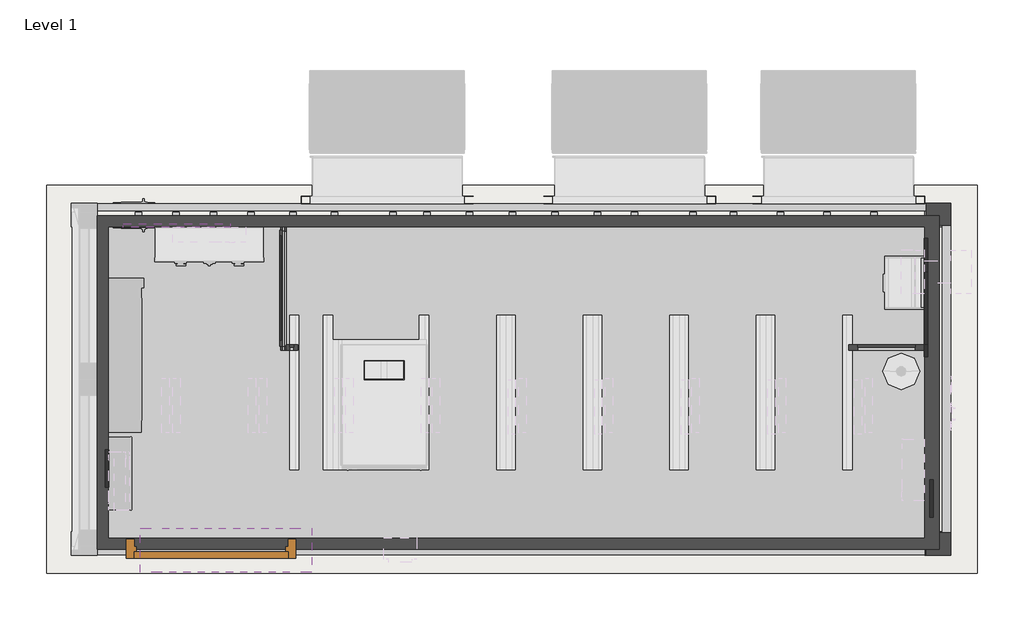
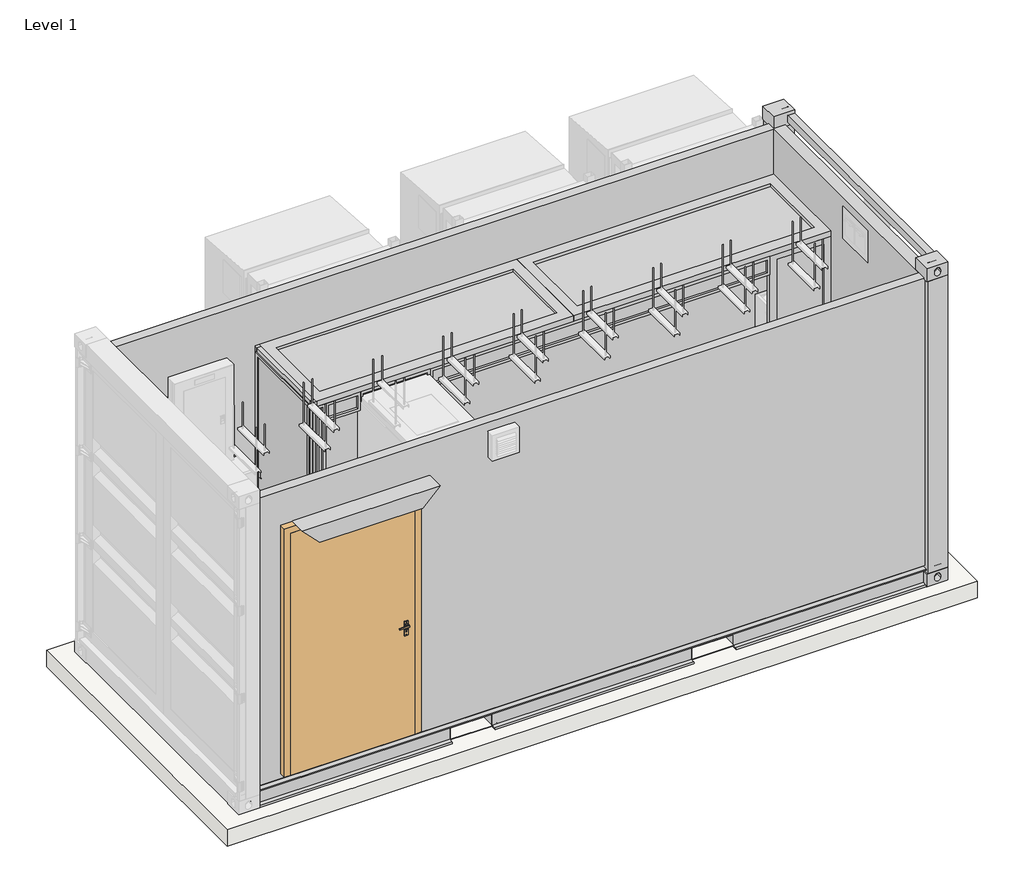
# One storey, part 1 of 2: 25 beams, 5 walls, 2 doors, 2 slabs.
"""IFC4 building model written with IfcOpenShell, lengths in millimetres."""

from ifc_helpers import new_model, si_unit, frame, origin, place, context, project, spatial, polyline, circle_curve, outline, extrude, transform, mapped, element, save
from ifc_brep_helpers import plane_surface, cylinder_surface, advanced_brep
from components import beam_51ea939b, beam_eed5193a, beam_32ef51aa, beam_f05dd575, c120x45_62af5141, c120x45_5c9b4daa, foot_stand_and_door_shade_foot_stand_and_door_shade_9e24d134, door_5ed18baa, door_f1603644, slab_0a3f1999

model = new_model("IFC4")

# Units and contexts
model_context = context("Model", 3, world=origin())
ifc_project = project(units=[si_unit("LENGTHUNIT", "METRE", prefix="MILLI")], contexts=[model_context])

# Site, building, storey
site = spatial("IfcSite", under=ifc_project)
building = spatial("IfcBuilding", under=site)
storey = spatial("IfcBuildingStorey", under=building, Name="Level 1", Elevation=0.0)

# Beams
placement = place(None, origin())
beam_shape = beam_51ea939b(model_context)
element("IfcBeam", 1, ObjectType="Base_cover_Config-6 : Base_cover_Config-6", at=placement, inside=storey, context=model_context, shape_type="MappedRepresentation", body=[
    mapped(beam_shape, transform((-1165.6108107, -1779.2772175, 0.0), x_axis=(1.0, 0.0, 0.0), y_axis=(0.0, 1.0, 0.0), z_axis=(0.0, 0.0, 1.0))),
])
beam_2_shape = beam_eed5193a(model_context)
element("IfcBeam", 2, ObjectType="Insulation_config6 : Insulation_config6", at=placement, inside=storey, context=model_context, shape_type="MappedRepresentation", body=[
    mapped(beam_2_shape, transform((-5643.4948906, -3401.735258, 0.0), x_axis=(1.0, 0.0, 0.0), y_axis=(0.0, 1.0, 0.0), z_axis=(0.0, 0.0, 1.0))),
])
beam_3_shape = beam_32ef51aa(model_context)
element("IfcBeam", 3, ObjectType="Inside Partition Config-6 : Inside Partition Config-6", at=placement, inside=storey, context=model_context, shape_type="MappedRepresentation", body=[
    mapped(beam_3_shape, transform((-2771.1108107, -1128.2772175, 0.0), x_axis=(1.0, 0.0, 0.0), y_axis=(0.0, 1.0, 0.0), z_axis=(0.0, 0.0, 1.0))),
])
beam_4_shape = beam_f05dd575(model_context)
element("IfcBeam", 4, ObjectType="Config-6 Right side wall acc : Config-6 Right side wall acc", at=placement, inside=storey, context=model_context, shape_type="MappedRepresentation", body=[
    mapped(beam_4_shape, transform((-1117.1108023, -2915.458701, 250.9999942), x_axis=(1.0, 0.0, 0.0), y_axis=(0.0, 1.0, 0.0), z_axis=(0.0, 0.0, 1.0))),
])
c120x45_shape = c120x45_62af5141(model_context)
element("IfcBeam", 5, ObjectType="M_C-Channel_305x105 : C120x45", at=placement, inside=storey, context=model_context, shape_type="MappedRepresentation", body=[
    mapped(c120x45_shape, transform((-3750.0018007, -1755.2772175, 324.0), x_axis=(0.0, -1.0, 0.0), y_axis=(1.0, 0.0, 0.0), z_axis=(0.0, 0.0, 1.0))),
])
element("IfcBeam", 6, ObjectType="M_C-Channel_305x105 : C120x45", at=placement, inside=storey, context=model_context, shape_type="MappedRepresentation", body=[
    mapped(c120x45_shape, transform((-3490.0018007, -1755.2772175, 324.0), x_axis=(0.0, -1.0, 0.0), y_axis=(1.0, 0.0, 0.0), z_axis=(0.0, 0.0, 1.0))),
])
element("IfcBeam", 7, ObjectType="M_C-Channel_305x105 : C120x45", at=placement, inside=storey, context=model_context, shape_type="MappedRepresentation", body=[
    mapped(c120x45_shape, transform((-3230.0018007, -1755.2772175, 324.0), x_axis=(0.0, -1.0, 0.0), y_axis=(1.0, 0.0, 0.0), z_axis=(0.0, 0.0, 1.0))),
])
element("IfcBeam", 8, ObjectType="M_C-Channel_305x105 : C120x45", at=placement, inside=storey, context=model_context, shape_type="MappedRepresentation", body=[
    mapped(c120x45_shape, transform((-2970.0018007, -1755.2772175, 324.0), x_axis=(0.0, -1.0, 0.0), y_axis=(1.0, 0.0, 0.0), z_axis=(0.0, 0.0, 1.0))),
])
element("IfcBeam", 9, ObjectType="M_C-Channel_305x105 : C120x45", at=placement, inside=storey, context=model_context, shape_type="MappedRepresentation", body=[
    mapped(c120x45_shape, transform((-2392.0018007, -1755.2772175, 324.0), x_axis=(0.0, -1.0, 0.0), y_axis=(1.0, 0.0, 0.0), z_axis=(0.0, 0.0, 1.0))),
])
element("IfcBeam", 10, ObjectType="M_C-Channel_305x105 : C120x45", at=placement, inside=storey, context=model_context, shape_type="MappedRepresentation", body=[
    mapped(c120x45_shape, transform((-2681.0018007, -1755.2772175, 324.0), x_axis=(0.0, -1.0, 0.0), y_axis=(1.0, 0.0, 0.0), z_axis=(0.0, 0.0, 1.0))),
])
element("IfcBeam", 11, ObjectType="M_C-Channel_305x105 : C120x45", at=placement, inside=storey, context=model_context, shape_type="MappedRepresentation", body=[
    mapped(c120x45_shape, transform((-1750.0018007, -1755.2772175, 324.0), x_axis=(0.0, -1.0, 0.0), y_axis=(1.0, 0.0, 0.0), z_axis=(0.0, 0.0, 1.0))),
])
element("IfcBeam", 12, ObjectType="M_C-Channel_305x105 : C120x45", at=placement, inside=storey, context=model_context, shape_type="MappedRepresentation", body=[
    mapped(c120x45_shape, transform((-1455.0018007, -1755.2772175, 324.0), x_axis=(0.0, -1.0, 0.0), y_axis=(1.0, 0.0, 0.0), z_axis=(0.0, 0.0, 1.0))),
])
element("IfcBeam", 13, ObjectType="M_C-Channel_305x105 : C120x45", at=placement, inside=storey, context=model_context, shape_type="MappedRepresentation", body=[
    mapped(c120x45_shape, transform((-1158.964023, -1755.2772175, 324.0), x_axis=(0.0, -1.0, 0.0), y_axis=(1.0, 0.0, 0.0), z_axis=(0.0, 0.0, 1.0))),
])
element("IfcBeam", 14, ObjectType="M_C-Channel_305x105 : C120x45", at=placement, inside=storey, context=model_context, shape_type="MappedRepresentation", body=[
    mapped(c120x45_shape, transform((-865.0018007, -1755.2772175, 324.0), x_axis=(0.0, -1.0, 0.0), y_axis=(1.0, 0.0, 0.0), z_axis=(0.0, 0.0, 1.0))),
])
element("IfcBeam", 15, ObjectType="M_C-Channel_305x105 : C120x45", at=placement, inside=storey, context=model_context, shape_type="MappedRepresentation", body=[
    mapped(c120x45_shape, transform((-570.0018007, -1755.2772175, 324.0), x_axis=(0.0, -1.0, 0.0), y_axis=(1.0, 0.0, 0.0), z_axis=(0.0, 0.0, 1.0))),
])
element("IfcBeam", 16, ObjectType="M_C-Channel_305x105 : C120x45", at=placement, inside=storey, context=model_context, shape_type="MappedRepresentation", body=[
    mapped(c120x45_shape, transform((-312.0018007, -1755.2772175, 324.0), x_axis=(0.0, -1.0, 0.0), y_axis=(1.0, 0.0, 0.0), z_axis=(0.0, 0.0, 1.0))),
])
element("IfcBeam", 17, ObjectType="M_C-Channel_305x105 : C120x45", at=placement, inside=storey, context=model_context, shape_type="MappedRepresentation", body=[
    mapped(c120x45_shape, transform((372.9981993, -1755.2772175, 324.0), x_axis=(0.0, -1.0, 0.0), y_axis=(1.0, 0.0, 0.0), z_axis=(0.0, 0.0, 1.0))),
])
element("IfcBeam", 18, ObjectType="M_C-Channel_305x105 : C120x45", at=placement, inside=storey, context=model_context, shape_type="MappedRepresentation", body=[
    mapped(c120x45_shape, transform((697.9981993, -1755.2772175, 324.0), x_axis=(0.0, -1.0, 0.0), y_axis=(1.0, 0.0, 0.0), z_axis=(0.0, 0.0, 1.0))),
])
element("IfcBeam", 19, ObjectType="M_C-Channel_305x105 : C120x45", at=placement, inside=storey, context=model_context, shape_type="MappedRepresentation", body=[
    mapped(c120x45_shape, transform((1022.9981993, -1755.2772175, 324.0), x_axis=(0.0, -1.0, 0.0), y_axis=(1.0, 0.0, 0.0), z_axis=(0.0, 0.0, 1.0))),
])
element("IfcBeam", 20, ObjectType="M_C-Channel_305x105 : C120x45", at=placement, inside=storey, context=model_context, shape_type="MappedRepresentation", body=[
    mapped(c120x45_shape, transform((1347.9981993, -1755.2772175, 324.0), x_axis=(0.0, -1.0, 0.0), y_axis=(1.0, 0.0, 0.0), z_axis=(0.0, 0.0, 1.0))),
])
c120x45_2_shape = c120x45_5c9b4daa(model_context)
element("IfcBeam", 21, ObjectType="M_C-Channel_305x105 : C120x45", at=placement, inside=storey, context=model_context, shape_type="MappedRepresentation", body=[
    mapped(c120x45_2_shape, transform((-1998.2198038, -1755.2772175, 324.0), x_axis=(0.0, -1.0, 0.0), y_axis=(1.0, 0.0, 0.0), z_axis=(0.0, 0.0, 1.0))),
])
element("IfcBeam", 22, ObjectType="M_C-Channel_305x105 : C120x45", at=placement, inside=storey, context=model_context, shape_type="MappedRepresentation", body=[
    mapped(c120x45_2_shape, transform((81.7801962, -1755.2772175, 324.0), x_axis=(0.0, -1.0, 0.0), y_axis=(1.0, 0.0, 0.0), z_axis=(0.0, 0.0, 1.0))),
])
element("IfcBeam", 23, ObjectType="M_C-Channel_305x105 : C160x47", at=placement, inside=storey, context=model_context, shape_type="AdvancedBrep", body=[
    advanced_brep(
    [(-4042.1108023, -585.7772175, 410.9999915), (-4042.1108023, -538.7772175, 410.9999915), (-4042.1108023, -551.4772175, 398.2999915), (-4042.1108023, -580.7772175, 393.6593274), (-4042.1108023, -580.7772175, 268.3406556), (-4042.1108023, -551.4772175, 263.6999915), (-4042.1108023, -538.7772175, 250.9999915), (-4042.1108023, -585.7772175, 250.9999915), (1785.8997533, -585.7772175, 410.9999915), (1785.8997533, -585.7772175, 250.9999915), (1785.8997533, -538.7772175, 250.9999915), (1785.8997533, -551.4772175, 263.6999915), (1785.8997533, -580.7772175, 268.3406556), (1785.8997533, -580.7772175, 393.6593274), (1785.8997533, -551.4772175, 398.2999915), (1785.8997533, -538.7772175, 410.9999915), (57.9269755, -580.7772175, 268.3406556), (57.9269755, -580.7772175, 365.9999967), (-302.1002467, -580.7772175, 365.9999967), (-302.1002467, -580.7772175, 268.3406556), (-2015.8963632, -580.7772175, 268.3406556), (-2015.8963632, -580.7772175, 365.999994), (-2382.1000733, -580.7772175, 365.999994), (-2382.1000733, -580.7772175, 268.3406556), (-2382.1000733, -551.4772175, 263.6999915), (57.9269755, -551.4772175, 263.6999915), (-2015.8963632, -551.4772175, 263.6999915), (-302.1002467, -551.4772175, 263.6999915), (-2382.1000733, -538.7772175, 250.9999915), (57.9269755, -538.7772175, 250.9999915), (-2015.8963632, -538.7772175, 250.9999915), (-302.1002467, -538.7772175, 250.9999915), (-2382.1000733, -585.7772175, 250.9999915), (57.9269755, -585.7772175, 250.9999915), (-2015.8963632, -585.7772175, 250.9999915), (-302.1002467, -585.7772175, 250.9999915), (-2382.1000733, -585.7772175, 365.999994), (-2015.8963632, -585.7772175, 365.999994), (-302.1002467, -585.7772175, 365.9999967), (57.9269755, -585.7772175, 365.9999967)],
    [
        (0, 1),
        (1, 2, circle_curve(frame((-4042.1108023, -551.4772175, 410.9999915), z_axis=(-1.0, 0.0, 0.0), x_axis=(0.0, 1.0, 0.0)), 12.7)),
        (2, 3),
        (3, 4),
        (4, 5),
        (5, 6, circle_curve(frame((-4042.1108023, -551.4772175, 250.9999915), z_axis=(-1.0, 0.0, 0.0), x_axis=(0.0, 1.0, 0.0)), 12.7)),
        (6, 7),
        (7, 0),
        (8, 9),
        (9, 10),
        (10, 11, circle_curve(frame((1785.8997533, -551.4772175, 250.9999915), z_axis=(1.0, 0.0, 0.0), x_axis=(0.0, 1.0, 0.0)), 12.7)),
        (11, 12),
        (12, 13),
        (13, 14),
        (14, 15, circle_curve(frame((1785.8997533, -551.4772175, 410.9999915), z_axis=(1.0, 0.0, 0.0), x_axis=(0.0, 1.0, 0.0)), 12.7)),
        (15, 8),
        (0, 8),
        (15, 1),
        (14, 2),
        (13, 3),
        (12, 16),
        (16, 17),
        (17, 18),
        (18, 19),
        (19, 20),
        (20, 21),
        (21, 22),
        (22, 23),
        (23, 4),
        (23, 24),
        (24, 5),
        (11, 25),
        (25, 16),
        (26, 20),
        (19, 27),
        (27, 26),
        (24, 28, circle_curve(frame((-2382.1000733, -551.4772175, 250.9999915), z_axis=(-1.0, 0.0, 0.0), x_axis=(0.0, 1.0, 0.0)), 12.7)),
        (28, 6),
        (10, 29),
        (29, 25, circle_curve(frame((57.9269755, -551.4772175, 250.9999915), z_axis=(1.0, 0.0, 0.0), x_axis=(0.0, 1.0, 0.0)), 12.7)),
        (30, 26, circle_curve(frame((-2015.8963632, -551.4772175, 250.9999915), z_axis=(1.0, 0.0, 0.0), x_axis=(0.0, 1.0, 0.0)), 12.7)),
        (27, 31, circle_curve(frame((-302.1002467, -551.4772175, 250.9999915), z_axis=(-1.0, 0.0, 0.0), x_axis=(0.0, 1.0, 0.0)), 12.7)),
        (31, 30),
        (28, 32),
        (32, 7),
        (9, 33),
        (33, 29),
        (34, 30),
        (31, 35),
        (35, 34),
        (32, 36),
        (36, 37),
        (37, 34),
        (35, 38),
        (38, 39),
        (39, 33),
        (36, 22),
        (21, 37),
        (38, 18),
        (17, 39),
    ],
    [
        plane_surface(frame((-4042.1108023, -564.7772175, 330.9999915), z_axis=(-1.0, 0.0, 0.0), x_axis=(0.0, 0.0, 1.0))),
        plane_surface(frame((1785.8997533, -564.7772175, 330.9999915), z_axis=(1.0, 0.0, 0.0), x_axis=(0.0, 0.0, 1.0))),
        plane_surface(frame((-4042.1108023, -585.7772175, 410.9999915), z_axis=(0.0, 0.0, 1.0), x_axis=(1.0, 0.0, 0.0))),
        cylinder_surface(frame((-4042.1108023, -551.4772175, 410.9999915), z_axis=(-1.0, 0.0, 0.0), x_axis=(0.0, 1.0, 0.0)), 12.7),
        plane_surface(frame((-4042.1108023, -551.4772175, 398.2999915), z_axis=(0.0, 0.15643446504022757, -0.9876883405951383), x_axis=(1.0, 0.0, 0.0))),
        plane_surface(frame((-4042.1108023, -580.7772175, 393.6593274), z_axis=(0.0, 1.0, 0.0), x_axis=(1.0, 0.0, 0.0))),
        plane_surface(frame((-4042.1108023, -580.7772175, 268.3406556), z_axis=(0.0, 0.1564344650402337, 0.9876883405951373), x_axis=(1.0, 0.0, 0.0))),
        cylinder_surface(frame((-4042.1108023, -551.4772175, 250.9999915), z_axis=(-1.0, 0.0, 0.0), x_axis=(0.0, 1.0, 0.0)), 12.7),
        plane_surface(frame((-4042.1108023, -538.7772175, 250.9999915), z_axis=(0.0, 0.0, -1.0), x_axis=(1.0, 0.0, 0.0))),
        plane_surface(frame((-4042.1108023, -585.7772175, 250.9999915), z_axis=(0.0, -1.0, 0.0), x_axis=(1.0, 0.0, 0.0))),
        plane_surface(frame((-2382.1000733, 16501.5727825, 365.999994), z_axis=(0.0, 0.0, -1.0), x_axis=(0.0, -1.0, 0.0))),
        plane_surface(frame((-2015.8963632, 16501.5727825, 365.999994), z_axis=(-1.0, 0.0, 0.0), x_axis=(0.0, -1.0, 0.0))),
        plane_surface(frame((-2382.1000733, 16501.5727825, 250.9999915), z_axis=(1.0, 0.0, 0.0), x_axis=(0.0, -1.0, 0.0))),
        plane_surface(frame((-302.1002467, 16501.5727825, 365.9999967), z_axis=(0.0, 0.0, -1.0), x_axis=(0.0, -1.0, 0.0))),
        plane_surface(frame((57.9269755, 16501.5727825, 365.9999967), z_axis=(-1.0, 0.0, 0.0), x_axis=(0.0, -1.0, 0.0))),
        plane_surface(frame((-302.1002467, 16501.5727825, 250.9999915), z_axis=(1.0, 0.0, 0.0), x_axis=(0.0, -1.0, 0.0))),
    ],
    [
        (0, [[1, 2, 3, 4, 5, 6, 7, 8]]),
        (1, [[9, 10, 11, 12, 13, 14, 15, 16]]),
        (2, [[-1, 17, -16, 18]]),
        (3, [[-2, -18, -15, 19]]),
        (4, [[-3, -19, -14, 20]]),
        (5, [[-4, -20, -13, 21, 22, 23, 24, 25, 26, 27, 28, 29]]),
        (6, [[-5, -29, 30, 31]]),
        (6, [[-12, 32, 33, -21]]),
        (6, [[34, -25, 35, 36]]),
        (7, [[-6, -31, 37, 38]]),
        (7, [[-11, 39, 40, -32]]),
        (7, [[41, -36, 42, 43]]),
        (8, [[-7, -38, 44, 45]]),
        (8, [[-10, 46, 47, -39]]),
        (8, [[48, -43, 49, 50]]),
        (9, [[-8, -45, 51, 52, 53, -50, 54, 55, 56, -46, -9, -17]]),
        (10, [[57, -27, 58, -52]]),
        (11, [[-58, -26, -34, -41, -48, -53]]),
        (12, [[-57, -51, -44, -37, -30, -28]]),
        (13, [[59, -23, 60, -55]]),
        (14, [[-60, -22, -33, -40, -47, -56]]),
        (15, [[-59, -54, -49, -42, -35, -24]]),
    ],
),
])
element("IfcBeam", 24, ObjectType="M_C-Channel_305x105 : C160x47", at=placement, inside=storey, context=model_context, shape_type="AdvancedBrep", body=[
    advanced_brep(
    [(-4042.1108023, -2971.7772175, 410.9999915), (-4042.1108023, -2924.7772175, 410.9999915), (-4042.1108023, -2924.7772175, 250.9999915), (-4042.1108023, -2971.7772175, 250.9999915), (-4042.1108023, -2959.0772175, 263.6999915), (-4042.1108023, -2929.7772175, 268.3406556), (-4042.1108023, -2929.7772175, 393.6593274), (-4042.1108023, -2959.0772175, 398.2999915), (1692.8997533, -2924.7772175, 250.9999915), (1692.8997533, -2924.7772175, 410.9999915), (1692.8997533, -2971.7772175, 410.9999915), (1692.8997533, -2959.0772175, 398.2999915), (1692.8997533, -2929.7772175, 393.6593274), (1692.8997533, -2929.7772175, 268.3406556), (1692.8997533, -2959.0772175, 263.6999915), (1692.8997533, -2971.7772175, 250.9999915), (-2382.1000733, -2929.7772175, 268.3406556), (-2382.1000733, -2929.7772175, 365.999994), (-2015.8963632, -2929.7772175, 365.999994), (-2015.8963632, -2929.7772175, 268.3406556), (-302.1002467, -2929.7772175, 268.3406556), (-302.1002467, -2929.7772175, 365.9999967), (57.9269755, -2929.7772175, 365.9999967), (57.9269755, -2929.7772175, 268.3406556), (-2382.1000733, -2959.0772175, 263.6999915), (57.9269755, -2959.0772175, 263.6999915), (-2015.8963632, -2959.0772175, 263.6999915), (-302.1002467, -2959.0772175, 263.6999915), (-2382.1000733, -2971.7772175, 250.9999915), (57.9269755, -2971.7772175, 250.9999915), (-2015.8963632, -2971.7772175, 250.9999915), (-302.1002467, -2971.7772175, 250.9999915), (-2382.1000733, -2924.7772175, 250.9999915), (57.9269755, -2924.7772175, 250.9999915), (-2015.8963632, -2924.7772175, 250.9999915), (-302.1002467, -2924.7772175, 250.9999915), (57.9269755, -2924.7772175, 365.9999967), (-302.1002467, -2924.7772175, 365.9999967), (-2015.8963632, -2924.7772175, 365.999994), (-2382.1000733, -2924.7772175, 365.999994)],
    [
        (0, 1),
        (1, 2),
        (2, 3),
        (3, 4, circle_curve(frame((-4042.1108023, -2959.0772175, 250.9999915), z_axis=(-1.0, 0.0, 0.0), x_axis=(0.0, -1.0, 0.0)), 12.7)),
        (4, 5),
        (5, 6),
        (6, 7),
        (7, 0, circle_curve(frame((-4042.1108023, -2959.0772175, 410.9999915), z_axis=(-1.0, 0.0, 0.0), x_axis=(0.0, -1.0, 0.0)), 12.7)),
        (8, 9),
        (9, 10),
        (10, 11, circle_curve(frame((1692.8997533, -2959.0772175, 410.9999915), z_axis=(1.0, 0.0, 0.0), x_axis=(0.0, -1.0, 0.0)), 12.7)),
        (11, 12),
        (12, 13),
        (13, 14),
        (14, 15, circle_curve(frame((1692.8997533, -2959.0772175, 250.9999915), z_axis=(1.0, 0.0, 0.0), x_axis=(0.0, -1.0, 0.0)), 12.7)),
        (15, 8),
        (0, 10),
        (9, 1),
        (7, 11),
        (6, 12),
        (5, 16),
        (16, 17),
        (17, 18),
        (18, 19),
        (19, 20),
        (20, 21),
        (21, 22),
        (22, 23),
        (23, 13),
        (4, 24),
        (24, 16),
        (23, 25),
        (25, 14),
        (19, 26),
        (26, 27),
        (27, 20),
        (3, 28),
        (28, 24, circle_curve(frame((-2382.1000733, -2959.0772175, 250.9999915), z_axis=(-1.0, 0.0, 0.0), x_axis=(0.0, -1.0, 0.0)), 12.7)),
        (25, 29, circle_curve(frame((57.9269755, -2959.0772175, 250.9999915), z_axis=(1.0, 0.0, 0.0), x_axis=(0.0, -1.0, 0.0)), 12.7)),
        (29, 15),
        (26, 30, circle_curve(frame((-2015.8963632, -2959.0772175, 250.9999915), z_axis=(1.0, 0.0, 0.0), x_axis=(0.0, -1.0, 0.0)), 12.7)),
        (30, 31),
        (31, 27, circle_curve(frame((-302.1002467, -2959.0772175, 250.9999915), z_axis=(-1.0, 0.0, 0.0), x_axis=(0.0, -1.0, 0.0)), 12.7)),
        (2, 32),
        (32, 28),
        (29, 33),
        (33, 8),
        (30, 34),
        (34, 35),
        (35, 31),
        (33, 36),
        (36, 37),
        (37, 35),
        (34, 38),
        (38, 39),
        (39, 32),
        (17, 39),
        (38, 18),
        (21, 37),
        (36, 22),
    ],
    [
        plane_surface(frame((-4042.1108023, -2945.7772175, 330.9999915), z_axis=(-1.0, 0.0, 0.0), x_axis=(0.0, 0.0, 1.0))),
        plane_surface(frame((1692.8997533, -2945.7772175, 330.9999915), z_axis=(1.0, 0.0, 0.0), x_axis=(0.0, 0.0, 1.0))),
        plane_surface(frame((-4042.1108023, -2924.7772175, 410.9999915), z_axis=(0.0, 0.0, 1.0), x_axis=(1.0, 0.0, 0.0))),
        cylinder_surface(frame((-4042.1108023, -2959.0772175, 410.9999915), z_axis=(-1.0, 0.0, 0.0), x_axis=(0.0, -1.0, 0.0)), 12.7),
        plane_surface(frame((-4042.1108023, -2959.0772175, 398.2999915), z_axis=(0.0, -0.15643446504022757, -0.9876883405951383), x_axis=(1.0, 0.0, 0.0))),
        plane_surface(frame((-4042.1108023, -2929.7772175, 393.6593274), z_axis=(0.0, -1.0, 0.0), x_axis=(1.0, 0.0, 0.0))),
        plane_surface(frame((-4042.1108023, -2929.7772175, 268.3406556), z_axis=(0.0, -0.1564344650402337, 0.9876883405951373), x_axis=(1.0, 0.0, 0.0))),
        cylinder_surface(frame((-4042.1108023, -2959.0772175, 250.9999915), z_axis=(-1.0, 0.0, 0.0), x_axis=(0.0, -1.0, 0.0)), 12.7),
        plane_surface(frame((-4042.1108023, -2971.7772175, 250.9999915), z_axis=(0.0, 0.0, -1.0), x_axis=(1.0, 0.0, 0.0))),
        plane_surface(frame((-4042.1108023, -2924.7772175, 250.9999915), z_axis=(0.0, 1.0, 0.0), x_axis=(1.0, 0.0, 0.0))),
        plane_surface(frame((-2382.1000733, 14078.5727825, 365.999994), z_axis=(0.0, 0.0, -1.0), x_axis=(0.0, -1.0, 0.0))),
        plane_surface(frame((-2015.8963632, 14078.5727825, 365.999994), z_axis=(-1.0, 0.0, 0.0), x_axis=(0.0, -1.0, 0.0))),
        plane_surface(frame((-2382.1000733, 14078.5727825, 250.9999915), z_axis=(1.0, 0.0, 0.0), x_axis=(0.0, -1.0, 0.0))),
        plane_surface(frame((-302.1002467, 14078.5727825, 365.9999967), z_axis=(0.0, 0.0, -1.0), x_axis=(0.0, -1.0, 0.0))),
        plane_surface(frame((57.9269755, 14078.5727825, 365.9999967), z_axis=(-1.0, 0.0, 0.0), x_axis=(0.0, -1.0, 0.0))),
        plane_surface(frame((-302.1002467, 14078.5727825, 250.9999915), z_axis=(1.0, 0.0, 0.0), x_axis=(0.0, -1.0, 0.0))),
    ],
    [
        (0, [[1, 2, 3, 4, 5, 6, 7, 8]]),
        (1, [[9, 10, 11, 12, 13, 14, 15, 16]]),
        (2, [[-1, 17, -10, 18]]),
        (3, [[-8, 19, -11, -17]]),
        (4, [[-7, 20, -12, -19]]),
        (5, [[-6, 21, 22, 23, 24, 25, 26, 27, 28, 29, -13, -20]]),
        (6, [[-5, 30, 31, -21]]),
        (6, [[-14, -29, 32, 33]]),
        (6, [[34, 35, 36, -25]]),
        (7, [[-4, 37, 38, -30]]),
        (7, [[-15, -33, 39, 40]]),
        (7, [[41, 42, 43, -35]]),
        (8, [[-3, 44, 45, -37]]),
        (8, [[-16, -40, 46, 47]]),
        (8, [[48, 49, 50, -42]]),
        (9, [[-2, -18, -9, -47, 51, 52, 53, -49, 54, 55, 56, -44]]),
        (10, [[-23, 57, -55, 58]]),
        (11, [[-24, -58, -54, -48, -41, -34]]),
        (12, [[-22, -31, -38, -45, -56, -57]]),
        (13, [[59, -52, 60, -27]]),
        (14, [[-60, -51, -46, -39, -32, -28]]),
        (15, [[-59, -26, -36, -43, -50, -53]]),
    ],
),
])
foot_stand_and_door_shade_foot_stand_and_door_shade_shape = foot_stand_and_door_shade_foot_stand_and_door_shade_9e24d134(model_context)
element("IfcBeam", 25, ObjectType="Foot Stand and Door shade : Foot Stand and Door shade", at=placement, inside=storey, context=model_context, shape_type="MappedRepresentation", body=[
    mapped(foot_stand_and_door_shade_foot_stand_and_door_shade_shape, transform((-3803.9508023, -3341.2578694, -225.0), x_axis=(1.0, 0.0, 0.0), y_axis=(0.0, 1.0, 0.0), z_axis=(0.0, 0.0, 1.0))),
])

# Doors
door_shape = door_5ed18baa(model_context)
element("IfcDoor", 26, ObjectType="Door_Steel_Republic_Single-DoubleRabbet-Equal : ByType", at=placement, inside=storey, context=model_context, shape_type="MappedRepresentation", body=[
    mapped(door_shape, transform((-1671.5201055, -3793.9182614, 474.0508653), x_axis=(-1.0, 0.0, 0.0), y_axis=(0.0, -1.0, 0.0), z_axis=(0.0, 0.0, 1.0))),
])
door_2_shape = door_f1603644(model_context)
element("IfcDoor", 27, ObjectType="DoorPanel_Steel_Republic_F : DoorPanel_Steel_Republic_F", at=placement, inside=storey, context=model_context, shape_type="MappedRepresentation", body=[
    mapped(door_2_shape, transform((-3253.6108023, -2974.0522175, 474.0508653), x_axis=(-1.0, 0.0, 0.0), y_axis=(0.0, -1.0, 0.0), z_axis=(0.0, 0.0, 1.0))),
])

# Slabs
slab_shape = slab_0a3f1999(model_context)
element("IfcSlab", 28, ObjectType="Config-b_bottom_channel_fill : Config-b_bottom_channel_fill", at=placement, inside=storey, context=model_context, shape_type="MappedRepresentation", body=[
    mapped(slab_shape, transform((-1177.1931474, -538.7772175, -229.7577769), x_axis=(-1.0000000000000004, 0.0, 0.0), y_axis=(0.0, -1.0000000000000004, 0.0), z_axis=(0.0, 0.0, 1.0))),
])
element("IfcSlab", 29, ObjectType="Generic 150mm", at=placement, inside=storey, context=model_context, shape_type="SweptSolid", body=[
    extrude(outline(polyline([(2058.8891977, -409.4824324), (2058.8891977, -3100.4161751), (-4394.1108023, -3100.4161751), (-4394.1108023, -409.4824324), (2058.8891977, -409.4824324)])), frame((0.0, 0.0, 102.2517841), z_axis=(0.0, 0.0, 1.0), x_axis=(1.0, 0.0, 0.0)), (0.0, 0.0, 1.0), 150.0),
])

# Walls
element("IfcWall", 30, ObjectType="Generic - 50mm 3", at=placement, inside=storey, context=model_context, shape_type="SweptSolid", body=[
    extrude(outline(polyline([(1752.3997533, -2453.7772175), (1752.3997533, -2713.7772175), (1728.3997533, -2713.7772175), (1728.3997533, -2453.7772175), (1752.3997533, -2453.7772175)])), frame((0.0, 0.0, 878.857313), z_axis=(0.0, 0.0, 1.0), x_axis=(1.0, 0.0, 0.0)), (0.0, 0.0, 1.0), 1696.2174867),
])
element("IfcWall", 31, ObjectType="Generic - 50mm 3", at=placement, inside=storey, context=model_context, shape_type="SweptSolid", body=[
    extrude(outline(polyline([(1714.8997533, -1014.7565442), (1714.8997533, -1514.7565442), (1690.8997533, -1514.7565442), (1690.8997533, -1014.7565442), (1714.8997533, -1014.7565442)])), frame((0.0, 0.0, 878.857313), z_axis=(0.0, 0.0, 1.0), x_axis=(1.0, 0.0, 0.0)), (0.0, 0.0, 1.0), 1696.2174867),
])
element("IfcWall", 32, ObjectType="Generic - 50mm 3", at=placement, inside=storey, context=model_context, shape_type="SweptSolid", body=[
    extrude(outline(polyline([(-3962.1108107, -2245.4651504), (-3962.1108107, -2505.4651504), (-3986.1108107, -2505.4651504), (-3986.1108107, -2245.4651504), (-3962.1108107, -2245.4651504)])), frame((0.0, 0.0, 878.857313), z_axis=(0.0, 0.0, 1.0), x_axis=(1.0, 0.0, 0.0)), (0.0, 0.0, 1.0), 1696.2174867),
])
element("IfcWall", 33, ObjectType="Generic - 50mm 3", at=placement, inside=storey, context=model_context, shape_type="SweptSolid", body=[
    extrude(outline(polyline([(-3121.4334393, -702.78503), (-3861.4334393, -702.78503), (-3861.4334393, -678.78503), (-3121.4334393, -678.78503), (-3121.4334393, -702.78503)])), frame((0.0, 0.0, 1960.0), z_axis=(0.0, 0.0, 1.0), x_axis=(1.0, 0.0, 0.0)), (0.0, 0.0, 1.0), 467.1118103),
])
element("IfcWall", 34, ObjectType="Generic - 50mm 3", at=placement, inside=storey, context=model_context, shape_type="SweptSolid", body=[
    extrude(outline(polyline([(1714.8997533, -779.7565442), (1714.8997533, -1599.7565442), (1690.8997533, -1599.7565442), (1690.8997533, -779.7565442), (1714.8997533, -779.7565442)])), frame((0.0, 0.0, 459.3578118), z_axis=(0.0, 0.0, 1.0), x_axis=(1.0, 0.0, 0.0)), (0.0, 0.0, 1.0), 1066.5368147),
])

save(model, "model.ifc")
